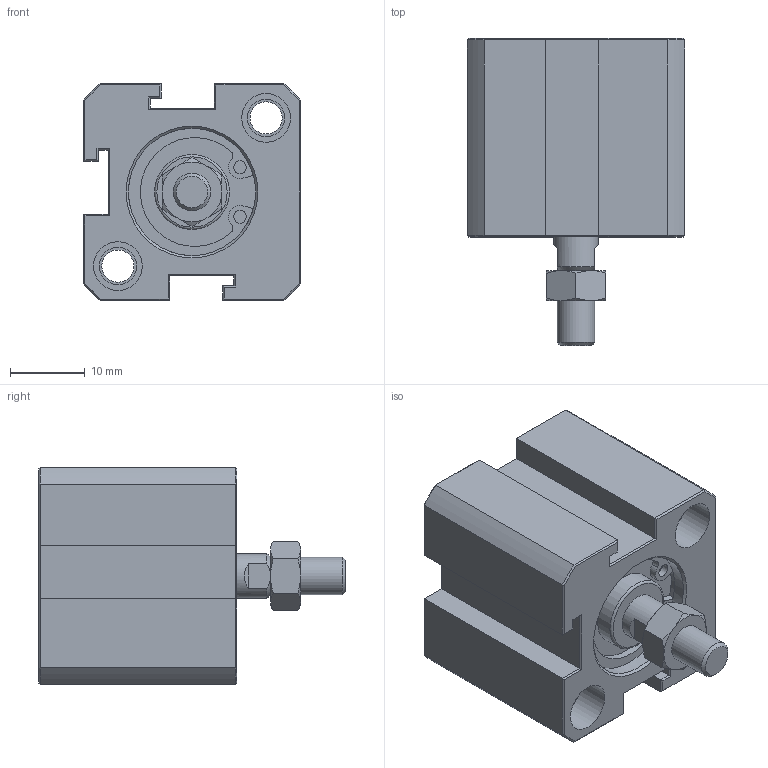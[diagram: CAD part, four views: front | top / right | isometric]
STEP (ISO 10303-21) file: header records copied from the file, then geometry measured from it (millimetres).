
FILE_DESCRIPTION(/* description */ (''),/* implementation_level */ '2;1');
FILE_NAME(/* name */ 'AJC-SD16X5W',/* time_stamp */ '2019-06-18T15:16:04+08:00',/* author */ ('JEFF HUANG'),/* organization */ ('TAIWAN AMAC CLAMP INDUSTRIAL CO., LTD.'),/* preprocessor_version */ 'ST-DEVELOPER v16.7',/* originating_system */ 'DEX',/* authorisation */ $);
FILE_SCHEMA (('AUTOMOTIVE_DESIGN {1 0 10303 214 3 1 1}'));
Length unit declared in the file: millimetre
Products named in the file (1): AJC-SD16X5W
Bounding box: 29 x 41 x 29 mm (x, y, z)
Volume: 18172.9 mm3; surface area: 6987.1 mm2
Topology: 1 solids, 1 shells, 172 faces, 377 edges, 228 vertices
Faces by surface type: plane 107, cylinder 38, cone 25, torus 2
Full cylindrical faces by diameter (mm): 1.7 x4, 4.3 x2, 5 x7, 6 x1, 6.5 x4, 10 x2, 17 x2
Entity records: 5726 total; most frequent: CARTESIAN_POINT 883, DIRECTION 750, ORIENTED_EDGE 688, EDGE_CURVE 344, AXIS2_PLACEMENT_3D 279, EDGE_LOOP 224, FACE_BOUND 224, VERTEX_POINT 222
